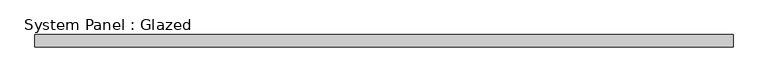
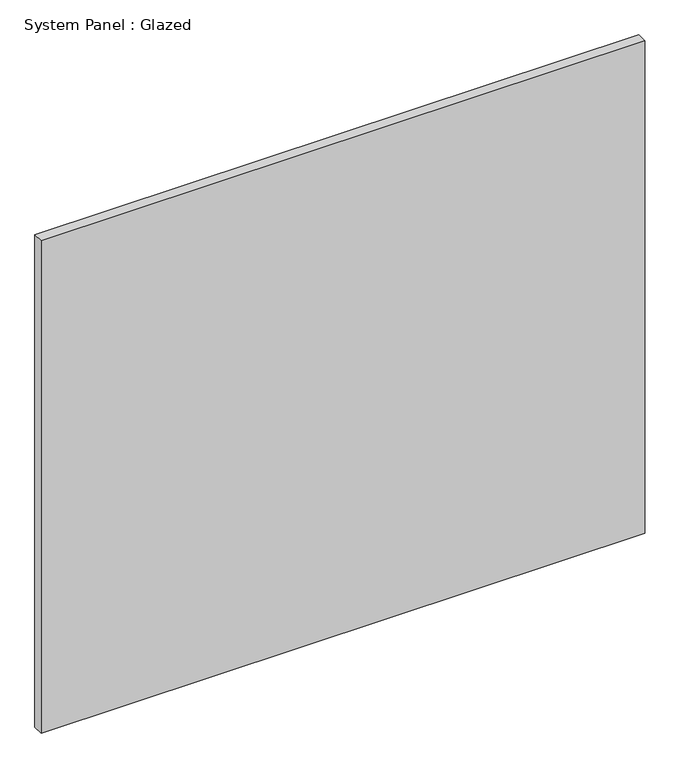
"""IFC4 building model written with IfcOpenShell, lengths in millimetres: plate geometry, System Panel : Glazed."""

import ifcopenshell
import ifcopenshell.guid

model = None  # the IFC model being written
_history = None  # IfcOwnerHistory: only IFC2X3 demands one
_inside = {}  # id of a spatial element -> (the spatial element, [elements in it])
_under = {}  # id of a project, library or spatial element -> (it, [spatial elements below it])
_declared = {}  # id of a project -> (the project, [libraries it declares])
_typed = {}  # id of a type object -> (the type object, [elements of that type])
_made_of = {}  # id of a material, layer set ... -> (it, [elements and type objects made of it])


def new_model(schema):
    """Start an empty IFC model of exactly this schema.

    Asked for "IFC4X3", IfcOpenShell would pick the latest addendum, in which some entities
    have other attributes; the version numbers below select the first issue.
    IFC2X3 requires an IfcOwnerHistory on every rooted entity: one is made here for all.
    """
    global model, _history
    if schema == "IFC4X3":
        model = ifcopenshell.file(schema_version=(4, 3, 0, 0))
    else:
        model = ifcopenshell.file(schema=schema)
    _inside.clear()
    _under.clear()
    _declared.clear()
    _typed.clear()
    _made_of.clear()
    _history = None
    if model.schema == "IFC2X3":
        org = make("IfcOrganization", Name="unknown")
        user = make(
            "IfcPersonAndOrganization",
            ThePerson=make("IfcPerson", FamilyName="unknown"),
            TheOrganization=org,
        )
        app = make(
            "IfcApplication",
            ApplicationDeveloper=org,
            Version="unknown",
            ApplicationFullName="unknown",
            ApplicationIdentifier="unknown",
        )
        _history = make(
            "IfcOwnerHistory",
            OwningUser=user,
            OwningApplication=app,
            ChangeAction="ADDED",
            CreationDate=0,
        )
    return model


def make(cls, **values):
    """One entity of the class cls with the attributes given. An attribute that is None is left unset."""
    return model.create_entity(
        cls, **{name: value for name, value in values.items() if value is not None}
    )


def rooted(cls, **values):
    """An entity with a GlobalId (a new one), such as an element, a storey or a relation."""
    return make(cls, GlobalId=ifcopenshell.guid.new(), OwnerHistory=_history, **values)


def si_unit(unit_type, name, prefix=None):
    """IfcSIUnit, for example si_unit("LENGTHUNIT", "METRE", prefix="MILLI")."""
    return make("IfcSIUnit", UnitType=unit_type, Prefix=prefix, Name=name)


def assignment(units):
    """IfcUnitAssignment: the units of a project."""
    return None if units is None else make("IfcUnitAssignment", Units=units)


def point(xyz):
    """IfcCartesianPoint."""
    return None if xyz is None else make("IfcCartesianPoint", Coordinates=xyz)


def direction(xyz):
    """IfcDirection."""
    return None if xyz is None else make("IfcDirection", DirectionRatios=xyz)


def frame(location, z_axis=None, x_axis=None):
    """IfcAxis2Placement3D, a coordinate frame: its origin and axes. An axis left out is left unset."""
    return make(
        "IfcAxis2Placement3D",
        Location=point(location),
        Axis=direction(z_axis),
        RefDirection=direction(x_axis),
    )


def origin():
    """The frame at (0, 0, 0) with its axes left unset."""
    return frame((0.0, 0.0, 0.0))


def origin_with_axes():
    """The frame at (0, 0, 0) with the z axis (0, 0, 1) and the x axis (1, 0, 0) written out."""
    return frame((0.0, 0.0, 0.0), z_axis=(0.0, 0.0, 1.0), x_axis=(1.0, 0.0, 0.0))


def place(relative_to, where):
    """IfcLocalPlacement: puts the frame where relative to a parent placement (None: the world)."""
    return make(
        "IfcLocalPlacement", PlacementRelTo=relative_to, RelativePlacement=where
    )


def context(
    kind, dimensions, precision=None, world=None, true_north=None, identifier=None
):
    """IfcGeometricRepresentationContext, for example the 3D "Model" context."""
    return make(
        "IfcGeometricRepresentationContext",
        ContextIdentifier=identifier,
        ContextType=kind,
        CoordinateSpaceDimension=dimensions,
        Precision=precision,
        WorldCoordinateSystem=world,
        TrueNorth=true_north,
    )


def project(units=None, contexts=None):
    """IfcProject with its units and contexts."""
    return rooted(
        "IfcProject",
        Name="project",
        RepresentationContexts=contexts,
        UnitsInContext=assignment(units),
    )


def spatial(cls, under=None, at=None, **own):
    """A site, building, storey or space (cls), placed at a placement, below another one or the project."""
    s = rooted(cls, ObjectPlacement=at, **own)
    if under is not None:
        _under.setdefault(under.id(), (under, []))[1].append(s)
    return s


def polyline(points):
    """IfcPolyline through the points."""
    return make("IfcPolyline", Points=[point(p) for p in points])


def outline(outer, holes=None, kind="AREA"):
    """IfcArbitraryClosedProfileDef: a profile drawn as a closed curve; with holes, ...WithVoids."""
    if holes is None:
        return make("IfcArbitraryClosedProfileDef", ProfileType=kind, OuterCurve=outer)
    return make(
        "IfcArbitraryProfileDefWithVoids",
        ProfileType=kind,
        OuterCurve=outer,
        InnerCurves=holes,
    )


def extrude(swept, where, along, depth):
    """IfcExtrudedAreaSolid: the profile swept, set in the frame where, extruded along a direction by depth."""
    return make(
        "IfcExtrudedAreaSolid",
        SweptArea=swept,
        Position=where,
        ExtrudedDirection=direction(along),
        Depth=depth,
    )


def shape(context_of_items, identifier, shape_type, items):
    """IfcShapeRepresentation: the items that make up one representation, for example the "Body"."""
    return make(
        "IfcShapeRepresentation",
        ContextOfItems=context_of_items,
        RepresentationIdentifier=identifier,
        RepresentationType=shape_type,
        Items=items,
    )


def source(mapping_origin, context_of_items, identifier, shape_type, items):
    """IfcRepresentationMap: a shape defined once, which mapped items show again and again."""
    return make(
        "IfcRepresentationMap",
        MappingOrigin=mapping_origin,
        MappedRepresentation=shape(context_of_items, identifier, shape_type, items),
    )


def transform(
    local_origin,
    x_axis=None,
    y_axis=None,
    z_axis=None,
    scale=None,
    scale2=None,
    scale3=None,
    uniform=True,
):
    """IfcCartesianTransformationOperator3D, or its non-uniform kind. x_axis, y_axis, z_axis: its Axis1, 2, 3."""
    if uniform:
        return make(
            "IfcCartesianTransformationOperator3D",
            Axis1=direction(x_axis),
            Axis2=direction(y_axis),
            LocalOrigin=point(local_origin),
            Scale=scale,
            Axis3=direction(z_axis),
        )
    return make(
        "IfcCartesianTransformationOperator3DnonUniform",
        Axis1=direction(x_axis),
        Axis2=direction(y_axis),
        LocalOrigin=point(local_origin),
        Scale=scale,
        Axis3=direction(z_axis),
        Scale2=scale2,
        Scale3=scale3,
    )


def mapped(mapping_source, mapping_target):
    """IfcMappedItem: shows the shape of a source again, moved by a transform."""
    return make(
        "IfcMappedItem", MappingSource=mapping_source, MappingTarget=mapping_target
    )


def made_of(thing, what):
    """Note that an element or type object is made of a material, layer set ...; save() writes the relation."""
    if what is not None:
        _made_of.setdefault(what.id(), (what, []))[1].append(thing)
    return thing


def element(
    cls,
    number,
    at=None,
    inside=None,
    cuts=None,
    type_object=None,
    material=None,
    context=None,
    identifier="Body",
    shape_type=None,
    held_by="IfcProductDefinitionShape",
    body=None,
    shapes=None,
    **own,
):
    """One element of the class cls, such as IfcWall. Its Tag is "e" and its number.

    at: its placement. inside: the storey or other place that contains it. cuts: it is an
    opening in that element (IfcRelVoidsElement). A single representation is given by context,
    identifier, shape_type and body (its items); several are given by shapes. held_by: the class
    of the entity that holds the representations. save() writes the other relations.
    """
    e = rooted(cls, Tag="e%d" % number, ObjectPlacement=at, **own)
    if body is not None:
        shapes = [shape(context, identifier, shape_type, body)]
    if shapes is not None:
        e.Representation = make(held_by, Representations=shapes)
    if inside is not None:
        _inside.setdefault(inside.id(), (inside, []))[1].append(e)
    if cuts is not None:
        rooted(
            "IfcRelVoidsElement", RelatingBuildingElement=cuts, RelatedOpeningElement=e
        )
    if type_object is not None:
        _typed.setdefault(type_object.id(), (type_object, []))[1].append(e)
    return made_of(e, material)


def aggregate(whole, parts):
    """IfcRelAggregates: a whole, such as a stair, and the parts it consists of."""
    return rooted("IfcRelAggregates", RelatingObject=whole, RelatedObjects=parts)


def save(model, path):
    """Write the relations noted so far, then the file.

    IfcRelAggregates (storeys below a building ...), IfcRelContainedInSpatialStructure (elements
    in a storey), IfcRelDefinesByType, IfcRelAssociatesMaterial and IfcRelDeclares: one each for
    every whole, place, type object, material and project.
    """
    for whole, parts in _under.values():
        aggregate(whole, parts)
    for where, things in _inside.values():
        rooted(
            "IfcRelContainedInSpatialStructure",
            RelatedElements=things,
            RelatingStructure=where,
        )
    for kind, things in _typed.values():
        rooted("IfcRelDefinesByType", RelatedObjects=things, RelatingType=kind)
    for what, things in _made_of.values():
        rooted("IfcRelAssociatesMaterial", RelatedObjects=things, RelatingMaterial=what)
    for by, libraries in _declared.values():
        rooted("IfcRelDeclares", RelatingContext=by, RelatedDefinitions=libraries)
    model.write(path)


def system_panel_glazed_b2c2fb9a(model_context):
    return source(origin(), model_context, "Body", "SweptSolid", [
        extrude(outline(polyline([(568.75, -40.0), (-568.75, -40.0), (-568.75, -20.0), (568.75, -20.0), (568.75, -40.0)])), origin_with_axes(), (0.0, 0.0, 1.0), 980.0),
    ])


if __name__ == "__main__":
    model = new_model("IFC4")
    model_context = context("Model", 3, world=origin())
    ifc_project = project(units=[si_unit("LENGTHUNIT", "METRE", prefix="MILLI")], contexts=[model_context])
    site = spatial("IfcSite", under=ifc_project)
    building = spatial("IfcBuilding", under=site)
    placement = place(None, origin())
    system_panel_glazed_shape = system_panel_glazed_b2c2fb9a(model_context)
    element("IfcPlate", 1, ObjectType="System Panel : Glazed", at=placement, inside=building, context=model_context, shape_type="MappedRepresentation", body=[
        mapped(system_panel_glazed_shape, transform((0.0, 0.0, 0.0), x_axis=(1.0, 0.0, 0.0), y_axis=(0.0, 1.0, 0.0), z_axis=(0.0, 0.0, 1.0))),
    ])
    save(model, "model.ifc")
